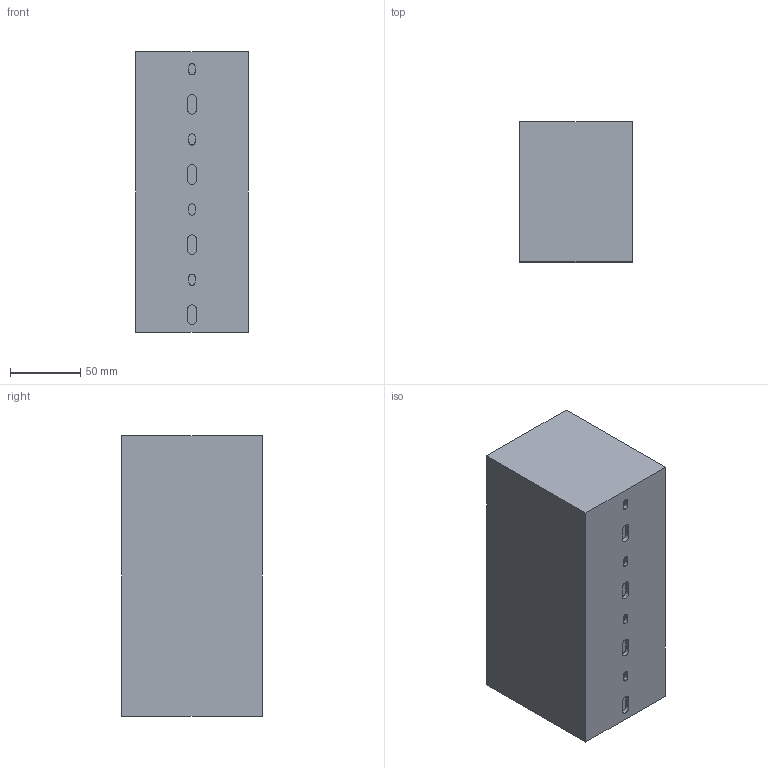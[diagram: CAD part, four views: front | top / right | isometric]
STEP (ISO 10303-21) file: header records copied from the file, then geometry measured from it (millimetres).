
FILE_DESCRIPTION(('SolidDesigner STEP Export'),'2;1');
FILE_NAME('3240360_CD_HF_80x100-select.stp','2012-03-13T11:33:13',(''),(''),'CoCreate Modeling STEP processor for AP214 (Solid Model)','CoCreate Modeling 16.00A 16-Aug-2008 (C) Parametric Technology GmbH','');
FILE_SCHEMA(('AUTOMOTIVE_DESIGN { 1 0 10303 214 1 1 1 1 }'));
Length unit declared in the file: millimetre
Products named in the file (2): 3240360_CD_HF_80x100-select
Assembly tree (1 placements, depth 2):
  3240360_CD_HF_80x100-select
    3240360_CD_HF_80x100-select
Bounding box: 80 x 100 x 200 mm (x, y, z)
Volume: 1598635.8 mm3; surface area: 88679.2 mm2
Topology: 1 solids, 1 shells, 62 faces, 156 edges, 104 vertices
Faces by surface type: plane 38, cylinder 24
Entity records: 1913 total; most frequent: DIRECTION 332, CARTESIAN_POINT 324, ORIENTED_EDGE 312, EDGE_CURVE 156, AXIS2_PLACEMENT_3D 112, VECTOR 108, LINE 108, VERTEX_POINT 104
